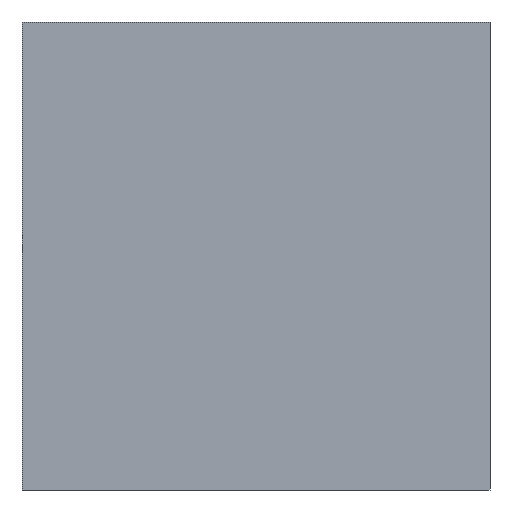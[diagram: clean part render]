
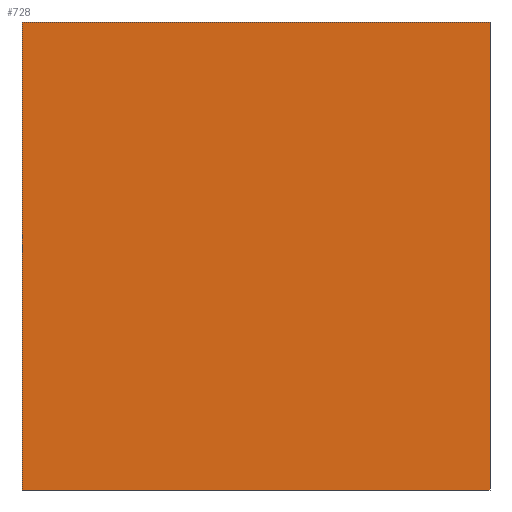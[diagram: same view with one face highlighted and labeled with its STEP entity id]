
A CAD part, front view. The second image highlights one B-rep face of the part: STEP entity #728.
In plain terms, the highlighted planar face has unit normal (0, -1, 0).
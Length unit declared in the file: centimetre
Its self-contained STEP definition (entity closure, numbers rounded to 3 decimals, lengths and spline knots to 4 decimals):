
#29 = DIRECTION ( 'NONE',  ( 0., 0., 1. ) ) ;
#77 = ORIENTED_EDGE ( 'NONE', *, *, #242, .T. ) ;
#170 = ORIENTED_EDGE ( 'NONE', *, *, #574, .F. ) ;
#174 = CARTESIAN_POINT ( 'NONE',  ( 1000., 0., 0. ) ) ;
#175 = ORIENTED_EDGE ( 'NONE', *, *, #279, .F. ) ;
#179 = DIRECTION ( 'NONE',  ( 0., 0., -1. ) ) ;
#191 = ORIENTED_EDGE ( 'NONE', *, *, #592, .T. ) ;
#233 = VERTEX_POINT ( 'NONE', #703 ) ;
#242 = EDGE_CURVE ( 'NONE', #711, #233, #655, .T. ) ;
#248 = VERTEX_POINT ( 'NONE', #174 ) ;
#259 = VERTEX_POINT ( 'NONE', #462 ) ;
#268 = VECTOR ( 'NONE', #652, 100. ) ;
#279 = EDGE_CURVE ( 'NONE', #259, #248, #709, .T. ) ;
#320 = VECTOR ( 'NONE', #344, 100. ) ;
#344 = DIRECTION ( 'NONE',  ( 1., 0., 0. ) ) ;
#350 = FACE_OUTER_BOUND ( 'NONE', #431, .T. ) ;
#378 = CARTESIAN_POINT ( 'NONE',  ( 1000., 0., 1000. ) ) ;
#379 = AXIS2_PLACEMENT_3D ( 'NONE', #697, #681, #29 ) ;
#431 = EDGE_LOOP ( 'NONE', ( #191, #175, #170, #77 ) ) ;
#432 = LINE ( 'NONE', #627, #779 ) ;
#462 = CARTESIAN_POINT ( 'NONE',  ( 1000., 0., 1000. ) ) ;
#507 = PLANE ( 'NONE',  #379 ) ;
#528 = VECTOR ( 'NONE', #179, 100. ) ;
#574 = EDGE_CURVE ( 'NONE', #711, #259, #432, .T. ) ;
#592 = EDGE_CURVE ( 'NONE', #233, #248, #765, .T. ) ;
#627 = CARTESIAN_POINT ( 'NONE',  ( 0., 0., 1000. ) ) ;
#630 = CARTESIAN_POINT ( 'NONE',  ( 0., 0., 0. ) ) ;
#652 = DIRECTION ( 'NONE',  ( 0., 0., -1. ) ) ;
#655 = LINE ( 'NONE', #831, #528 ) ;
#681 = DIRECTION ( 'NONE',  ( 0., 1., 0. ) ) ;
#691 = DIRECTION ( 'NONE',  ( 1., 0., 0. ) ) ;
#697 = CARTESIAN_POINT ( 'NONE',  ( 0., 0., 1000. ) ) ;
#703 = CARTESIAN_POINT ( 'NONE',  ( 0., 0., 0. ) ) ;
#709 = LINE ( 'NONE', #378, #268 ) ;
#711 = VERTEX_POINT ( 'NONE', #743 ) ;
#728 = ADVANCED_FACE ( 'NONE', ( #350 ), #507, .F. ) ;
#743 = CARTESIAN_POINT ( 'NONE',  ( 0., 0., 1000. ) ) ;
#765 = LINE ( 'NONE', #630, #320 ) ;
#779 = VECTOR ( 'NONE', #691, 100. ) ;
#831 = CARTESIAN_POINT ( 'NONE',  ( 0., 0., 1000. ) ) ;
